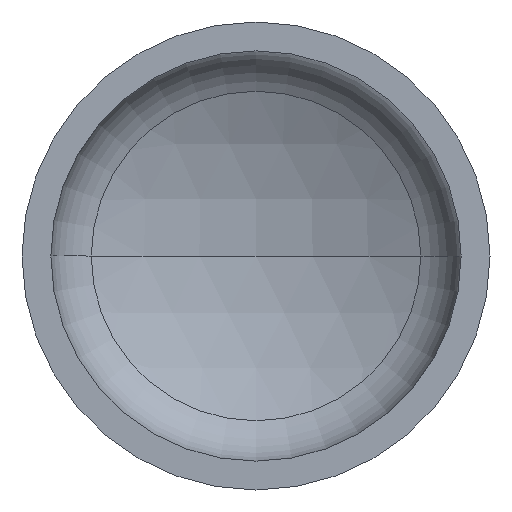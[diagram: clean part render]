
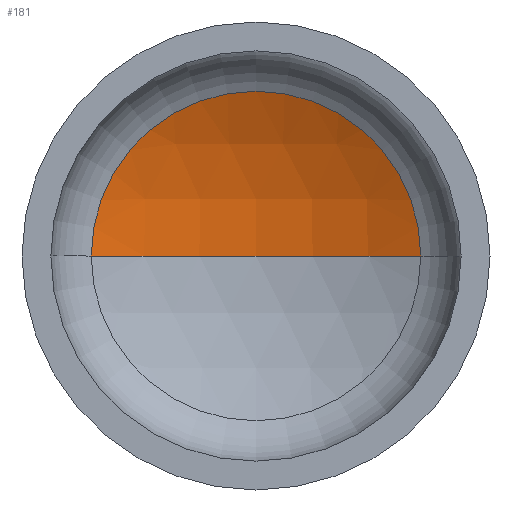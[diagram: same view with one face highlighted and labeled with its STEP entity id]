
A CAD part, front view. The second image highlights one B-rep face of the part: STEP entity #181.
In plain terms, the highlighted spherical face has radius 960 mm.
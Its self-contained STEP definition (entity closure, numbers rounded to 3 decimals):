
#9 = ORIENTED_EDGE ( 'NONE', *, *, #154, .T. ) ;
#13 = CARTESIAN_POINT ( 'NONE',  ( 0., 286.13, 0. ) ) ;
#16 = EDGE_LOOP ( 'NONE', ( #114, #9, #107 ) ) ;
#41 = AXIS2_PLACEMENT_3D ( 'NONE', #210, #62, #269 ) ;
#47 = AXIS2_PLACEMENT_3D ( 'NONE', #392, #349, #185 ) ;
#52 = AXIS2_PLACEMENT_3D ( 'NONE', #224, #222, #223 ) ;
#60 = AXIS2_PLACEMENT_3D ( 'NONE', #13, #279, #132 ) ;
#62 = DIRECTION ( 'NONE',  ( 0., 0., -1. ) ) ;
#91 = VERTEX_POINT ( 'NONE', #328 ) ;
#102 = VERTEX_POINT ( 'NONE', #341 ) ;
#107 = ORIENTED_EDGE ( 'NONE', *, *, #138, .T. ) ;
#114 = ORIENTED_EDGE ( 'NONE', *, *, #173, .F. ) ;
#124 = VERTEX_POINT ( 'NONE', #308 ) ;
#132 = DIRECTION ( 'NONE',  ( 1., 0., 0. ) ) ;
#138 = EDGE_CURVE ( 'NONE', #102, #124, #286, .T. ) ;
#149 = SPHERICAL_SURFACE ( 'NONE', #41, 960. ) ;
#154 = EDGE_CURVE ( 'NONE', #91, #102, #400, .T. ) ;
#157 = FACE_OUTER_BOUND ( 'NONE', #16, .T. ) ;
#173 = EDGE_CURVE ( 'NONE', #91, #124, #406, .T. ) ;
#181 = ADVANCED_FACE ( 'NONE', ( #157 ), #149, .F. ) ;
#185 = DIRECTION ( 'NONE',  ( -1., 0., 0. ) ) ;
#210 = CARTESIAN_POINT ( 'NONE',  ( 0., -575.948, 0. ) ) ;
#222 = DIRECTION ( 'NONE',  ( 0., 0., 1. ) ) ;
#223 = DIRECTION ( 'NONE',  ( 1., 0., 0. ) ) ;
#224 = CARTESIAN_POINT ( 'NONE',  ( 0., -575.948, 0. ) ) ;
#269 = DIRECTION ( 'NONE',  ( -1., 0., 0. ) ) ;
#279 = DIRECTION ( 'NONE',  ( 0., -1., 0. ) ) ;
#286 = CIRCLE ( 'NONE', #60, 422.4 ) ;
#308 = CARTESIAN_POINT ( 'NONE',  ( -422.4, 286.13, 0. ) ) ;
#328 = CARTESIAN_POINT ( 'NONE',  ( 0., 384.052, 0. ) ) ;
#341 = CARTESIAN_POINT ( 'NONE',  ( 422.4, 286.13, 0. ) ) ;
#349 = DIRECTION ( 'NONE',  ( 0., 0., -1. ) ) ;
#392 = CARTESIAN_POINT ( 'NONE',  ( 0., -575.948, 0. ) ) ;
#400 = CIRCLE ( 'NONE', #47, 960. ) ;
#406 = CIRCLE ( 'NONE', #52, 960. ) ;
